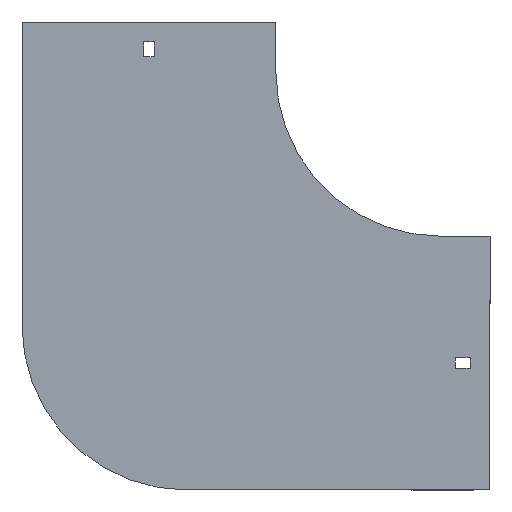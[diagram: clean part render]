
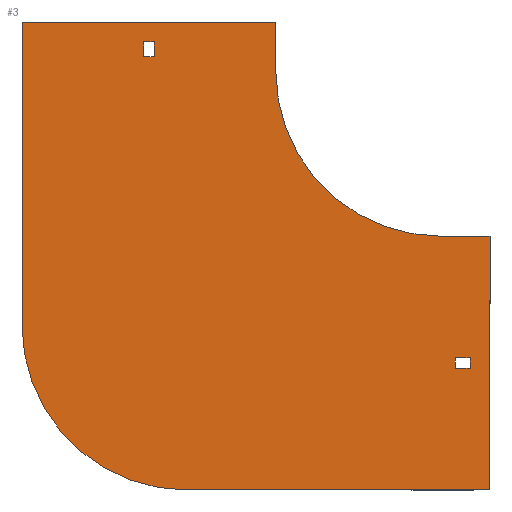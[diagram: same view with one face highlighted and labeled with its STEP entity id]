
A CAD part, front view. The second image highlights one B-rep face of the part: STEP entity #3.
In plain terms, the highlighted planar face has unit normal (0, -1, 0).
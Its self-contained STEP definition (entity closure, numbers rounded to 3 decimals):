
#3 = ADVANCED_FACE ( 'NONE', ( #600, #1602, #734 ), #1306, .T. ) ;
#8 = LINE ( 'NONE', #1641, #44 ) ;
#15 = EDGE_LOOP ( 'NONE', ( #1923, #1576, #869, #1589, #1334, #524, #1419, #636 ) ) ;
#44 = VECTOR ( 'NONE', #289, 1000. ) ;
#77 = CIRCLE ( 'NONE', #1181, 100. ) ;
#78 = CARTESIAN_POINT ( 'NONE',  ( -100., 0., 30. ) ) ;
#87 = LINE ( 'NONE', #1286, #1037 ) ;
#108 = LINE ( 'NONE', #420, #1834 ) ;
#110 = VECTOR ( 'NONE', #1068, 1000. ) ;
#111 = VERTEX_POINT ( 'NONE', #649 ) ;
#121 = EDGE_CURVE ( 'NONE', #1562, #1118, #911, .T. ) ;
#143 = EDGE_CURVE ( 'NONE', #211, #562, #1949, .T. ) ;
#155 = VECTOR ( 'NONE', #1936, 1000. ) ;
#156 = DIRECTION ( 'NONE',  ( 1., 0., 0. ) ) ;
#163 = CARTESIAN_POINT ( 'NONE',  ( 0., 0., -100. ) ) ;
#179 = ORIENTED_EDGE ( 'NONE', *, *, #613, .T. ) ;
#205 = VERTEX_POINT ( 'NONE', #1226 ) ;
#211 = VERTEX_POINT ( 'NONE', #405 ) ;
#212 = ORIENTED_EDGE ( 'NONE', *, *, #1265, .F. ) ;
#239 = EDGE_CURVE ( 'NONE', #562, #736, #1412, .T. ) ;
#247 = CARTESIAN_POINT ( 'NONE',  ( 18., 0., -173.75 ) ) ;
#275 = CARTESIAN_POINT ( 'NONE',  ( -254., 0., -154. ) ) ;
#289 = DIRECTION ( 'NONE',  ( 0., 0., 1. ) ) ;
#290 = CARTESIAN_POINT ( 'NONE',  ( 9., 0., -173.75 ) ) ;
#296 = VECTOR ( 'NONE', #1612, 1000. ) ;
#307 = LINE ( 'NONE', #622, #1465 ) ;
#330 = CARTESIAN_POINT ( 'NONE',  ( 9., 0., -180.25 ) ) ;
#357 = VECTOR ( 'NONE', #1372, 1000. ) ;
#360 = EDGE_CURVE ( 'NONE', #736, #718, #77, .T. ) ;
#367 = VERTEX_POINT ( 'NONE', #330 ) ;
#385 = VECTOR ( 'NONE', #819, 1000. ) ;
#395 = ORIENTED_EDGE ( 'NONE', *, *, #775, .F. ) ;
#398 = VECTOR ( 'NONE', #1403, 1000. ) ;
#405 = CARTESIAN_POINT ( 'NONE',  ( -254., 0., 30. ) ) ;
#420 = CARTESIAN_POINT ( 'NONE',  ( -180.25, 0., 18. ) ) ;
#448 = DIRECTION ( 'NONE',  ( 0., 0., -1. ) ) ;
#466 = AXIS2_PLACEMENT_3D ( 'NONE', #1191, #1408, #977 ) ;
#477 = EDGE_CURVE ( 'NONE', #111, #1844, #1432, .T. ) ;
#493 = VERTEX_POINT ( 'NONE', #1073 ) ;
#519 = DIRECTION ( 'NONE',  ( 0., 0., -1. ) ) ;
#524 = ORIENTED_EDGE ( 'NONE', *, *, #1594, .F. ) ;
#554 = LINE ( 'NONE', #857, #752 ) ;
#562 = VERTEX_POINT ( 'NONE', #1080 ) ;
#585 = DIRECTION ( 'NONE',  ( 0., -1., 0. ) ) ;
#595 = CARTESIAN_POINT ( 'NONE',  ( -180.25, 0., 9. ) ) ;
#600 = FACE_BOUND ( 'NONE', #1384, .T. ) ;
#613 = EDGE_CURVE ( 'NONE', #1145, #984, #554, .T. ) ;
#622 = CARTESIAN_POINT ( 'NONE',  ( 9., 0., -180.25 ) ) ;
#623 = CARTESIAN_POINT ( 'NONE',  ( -173.75, 0., 18. ) ) ;
#624 = EDGE_CURVE ( 'NONE', #205, #1145, #108, .T. ) ;
#636 = ORIENTED_EDGE ( 'NONE', *, *, #239, .F. ) ;
#649 = CARTESIAN_POINT ( 'NONE',  ( -154., 0., -254. ) ) ;
#704 = DIRECTION ( 'NONE',  ( 0., 0., -1. ) ) ;
#718 = VERTEX_POINT ( 'NONE', #1054 ) ;
#734 = FACE_BOUND ( 'NONE', #1508, .T. ) ;
#736 = VERTEX_POINT ( 'NONE', #1786 ) ;
#752 = VECTOR ( 'NONE', #1904, 1000. ) ;
#760 = LINE ( 'NONE', #163, #357 ) ;
#764 = EDGE_CURVE ( 'NONE', #1844, #211, #8, .T. ) ;
#775 = EDGE_CURVE ( 'NONE', #367, #493, #307, .T. ) ;
#790 = ORIENTED_EDGE ( 'NONE', *, *, #1737, .T. ) ;
#792 = EDGE_CURVE ( 'NONE', #493, #1562, #914, .T. ) ;
#819 = DIRECTION ( 'NONE',  ( 0., 0., -1. ) ) ;
#842 = VECTOR ( 'NONE', #156, 1000. ) ;
#857 = CARTESIAN_POINT ( 'NONE',  ( -173.75, 0., 9. ) ) ;
#869 = ORIENTED_EDGE ( 'NONE', *, *, #477, .F. ) ;
#897 = DIRECTION ( 'NONE',  ( 1., 0., 0. ) ) ;
#911 = LINE ( 'NONE', #1839, #110 ) ;
#914 = LINE ( 'NONE', #1039, #296 ) ;
#921 = ORIENTED_EDGE ( 'NONE', *, *, #792, .F. ) ;
#941 = LINE ( 'NONE', #1210, #1167 ) ;
#947 = CARTESIAN_POINT ( 'NONE',  ( -254., 0., 30. ) ) ;
#964 = EDGE_CURVE ( 'NONE', #1404, #111, #1008, .T. ) ;
#977 = DIRECTION ( 'NONE',  ( 0., 0., 1. ) ) ;
#984 = VERTEX_POINT ( 'NONE', #1440 ) ;
#997 = ORIENTED_EDGE ( 'NONE', *, *, #1101, .T. ) ;
#998 = DIRECTION ( 'NONE',  ( -1., 0., 0. ) ) ;
#1008 = LINE ( 'NONE', #1705, #1916 ) ;
#1021 = AXIS2_PLACEMENT_3D ( 'NONE', #1765, #1489, #448 ) ;
#1025 = EDGE_CURVE ( 'NONE', #1280, #1404, #87, .T. ) ;
#1037 = VECTOR ( 'NONE', #704, 1000. ) ;
#1039 = CARTESIAN_POINT ( 'NONE',  ( 18., 0., -180.25 ) ) ;
#1054 = CARTESIAN_POINT ( 'NONE',  ( 0., 0., -100. ) ) ;
#1068 = DIRECTION ( 'NONE',  ( -1., 0., 0. ) ) ;
#1073 = CARTESIAN_POINT ( 'NONE',  ( 18., 0., -180.25 ) ) ;
#1080 = CARTESIAN_POINT ( 'NONE',  ( -100., 0., 30. ) ) ;
#1101 = EDGE_CURVE ( 'NONE', #1461, #205, #1342, .T. ) ;
#1118 = VERTEX_POINT ( 'NONE', #290 ) ;
#1145 = VERTEX_POINT ( 'NONE', #623 ) ;
#1167 = VECTOR ( 'NONE', #1799, 1000. ) ;
#1181 = AXIS2_PLACEMENT_3D ( 'NONE', #1910, #585, #519 ) ;
#1187 = CARTESIAN_POINT ( 'NONE',  ( 30., 0., -254. ) ) ;
#1191 = CARTESIAN_POINT ( 'NONE',  ( -154., 0., -154. ) ) ;
#1210 = CARTESIAN_POINT ( 'NONE',  ( -180.25, 0., 9. ) ) ;
#1211 = LINE ( 'NONE', #1862, #385 ) ;
#1217 = CARTESIAN_POINT ( 'NONE',  ( -180.25, 0., 9. ) ) ;
#1226 = CARTESIAN_POINT ( 'NONE',  ( -180.25, 0., 18. ) ) ;
#1265 = EDGE_CURVE ( 'NONE', #1118, #367, #1211, .T. ) ;
#1280 = VERTEX_POINT ( 'NONE', #1542 ) ;
#1286 = CARTESIAN_POINT ( 'NONE',  ( 30., 0., -100. ) ) ;
#1306 = PLANE ( 'NONE',  #1021 ) ;
#1318 = DIRECTION ( 'NONE',  ( 1., 0., 0. ) ) ;
#1334 = ORIENTED_EDGE ( 'NONE', *, *, #1025, .F. ) ;
#1342 = LINE ( 'NONE', #595, #155 ) ;
#1372 = DIRECTION ( 'NONE',  ( 1., 0., 0. ) ) ;
#1384 = EDGE_LOOP ( 'NONE', ( #997, #1885, #179, #790 ) ) ;
#1403 = DIRECTION ( 'NONE',  ( 0., 0., -1. ) ) ;
#1404 = VERTEX_POINT ( 'NONE', #1187 ) ;
#1408 = DIRECTION ( 'NONE',  ( 0., 1., 0. ) ) ;
#1412 = LINE ( 'NONE', #78, #398 ) ;
#1419 = ORIENTED_EDGE ( 'NONE', *, *, #360, .F. ) ;
#1432 = CIRCLE ( 'NONE', #466, 100. ) ;
#1440 = CARTESIAN_POINT ( 'NONE',  ( -173.75, 0., 9. ) ) ;
#1461 = VERTEX_POINT ( 'NONE', #1217 ) ;
#1465 = VECTOR ( 'NONE', #897, 1000. ) ;
#1489 = DIRECTION ( 'NONE',  ( 0., -1., 0. ) ) ;
#1508 = EDGE_LOOP ( 'NONE', ( #921, #395, #212, #1548 ) ) ;
#1542 = CARTESIAN_POINT ( 'NONE',  ( 30., 0., -100. ) ) ;
#1548 = ORIENTED_EDGE ( 'NONE', *, *, #121, .F. ) ;
#1562 = VERTEX_POINT ( 'NONE', #247 ) ;
#1576 = ORIENTED_EDGE ( 'NONE', *, *, #764, .F. ) ;
#1589 = ORIENTED_EDGE ( 'NONE', *, *, #964, .F. ) ;
#1594 = EDGE_CURVE ( 'NONE', #718, #1280, #760, .T. ) ;
#1602 = FACE_OUTER_BOUND ( 'NONE', #15, .T. ) ;
#1612 = DIRECTION ( 'NONE',  ( 0., 0., 1. ) ) ;
#1641 = CARTESIAN_POINT ( 'NONE',  ( -254., 0., -154. ) ) ;
#1705 = CARTESIAN_POINT ( 'NONE',  ( 30., 0., -254. ) ) ;
#1737 = EDGE_CURVE ( 'NONE', #984, #1461, #941, .T. ) ;
#1765 = CARTESIAN_POINT ( 'NONE',  ( 0., 0., 0. ) ) ;
#1786 = CARTESIAN_POINT ( 'NONE',  ( -100., 0., 0. ) ) ;
#1799 = DIRECTION ( 'NONE',  ( -1., 0., 0. ) ) ;
#1834 = VECTOR ( 'NONE', #1318, 1000. ) ;
#1839 = CARTESIAN_POINT ( 'NONE',  ( 9., 0., -173.75 ) ) ;
#1844 = VERTEX_POINT ( 'NONE', #275 ) ;
#1862 = CARTESIAN_POINT ( 'NONE',  ( 9., 0., -180.25 ) ) ;
#1885 = ORIENTED_EDGE ( 'NONE', *, *, #624, .T. ) ;
#1904 = DIRECTION ( 'NONE',  ( 0., 0., -1. ) ) ;
#1910 = CARTESIAN_POINT ( 'NONE',  ( 0., 0., 0. ) ) ;
#1916 = VECTOR ( 'NONE', #998, 1000. ) ;
#1923 = ORIENTED_EDGE ( 'NONE', *, *, #143, .F. ) ;
#1936 = DIRECTION ( 'NONE',  ( 0., 0., 1. ) ) ;
#1949 = LINE ( 'NONE', #947, #842 ) ;
